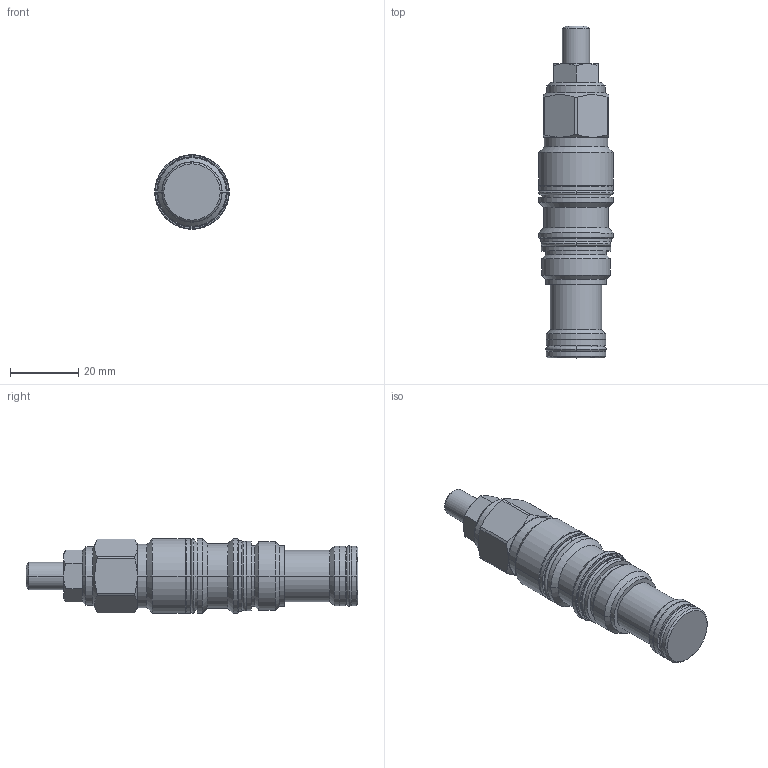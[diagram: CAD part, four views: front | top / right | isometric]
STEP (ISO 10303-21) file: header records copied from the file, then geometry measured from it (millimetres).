
FILE_DESCRIPTION( ( '' ), '1' );
FILE_NAME( 'M:/ZZ/_Marketing/Produkteportfolio/CLHV ab Lager/CLHV 3 T11A C A(B)...-V.stp', '2021-08-19T08:43:27', ( '' ), ( '' ), ' ', ' ', ' ' );
FILE_SCHEMA( ( 'automotive_design' ) );
Length unit declared in the file: millimetre
Products named in the file (1): 1
Bounding box: 21.8 x 97 x 21.8 mm (x, y, z)
Volume: 23999.7 mm3; surface area: 7165.6 mm2
Topology: 1 solids, 1 shells, 147 faces, 325 edges, 195 vertices
Faces by surface type: cylinder 52, plane 47, cone 36, torus 12
Entity records: 7816 total; most frequent: DIRECTION 758, CARTESIAN_POINT 732, STYLED_ITEM 668, PRESENTATION_STYLE_ASSIGNMENT 668, COLOUR_RGB 668, ORIENTED_EDGE 650, EDGE_CURVE 325, CURVE_STYLE 325
